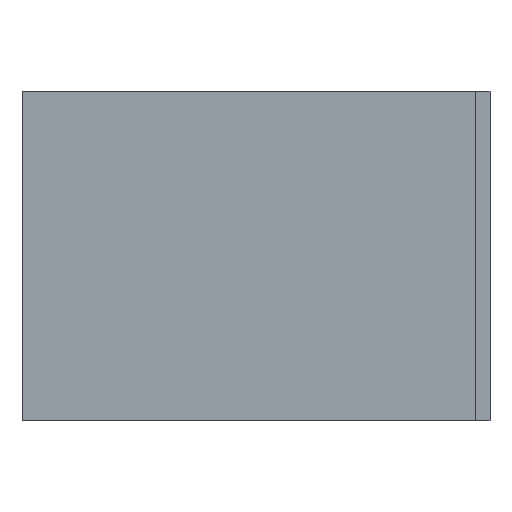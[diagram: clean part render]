
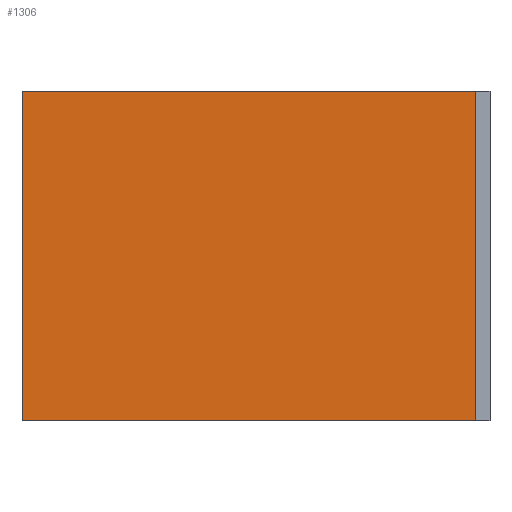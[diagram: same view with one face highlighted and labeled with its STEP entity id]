
A CAD part, left-side view. The second image highlights one B-rep face of the part: STEP entity #1306.
In plain terms, the highlighted planar face has unit normal (-1, 0, 0).
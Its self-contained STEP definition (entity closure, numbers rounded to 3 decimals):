
#1306 = ADVANCED_FACE ( 'NONE', ( #3102 ), #3096, .T. ) ;
#1672 = ORIENTED_EDGE ( 'NONE', *, *, #5565, .F. ) ;
#1673 = ORIENTED_EDGE ( 'NONE', *, *, #5564, .F. ) ;
#1674 = ORIENTED_EDGE ( 'NONE', *, *, #5563, .T. ) ;
#1675 = ORIENTED_EDGE ( 'NONE', *, *, #5568, .T. ) ;
#2031 = EDGE_LOOP ( 'NONE', ( #1672, #1673, #1674, #1675 ) ) ;
#2536 = LINE ( 'NONE', #2537, #7122 ) ;
#2537 = CARTESIAN_POINT ( 'NONE',  ( -87., 30., -45. ) ) ;
#2541 = LINE ( 'NONE', #2551, #7125 ) ;
#2542 = LINE ( 'NONE', #2548, #7127 ) ;
#2547 = DIRECTION ( 'NONE',  ( 0., -1., 0. ) ) ;
#2548 = CARTESIAN_POINT ( 'NONE',  ( -87., 32., -45. ) ) ;
#2550 = DIRECTION ( 'NONE',  ( 0., 0., 1. ) ) ;
#2551 = CARTESIAN_POINT ( 'NONE',  ( -87., 30., 0. ) ) ;
#2552 = LINE ( 'NONE', #2559, #7129 ) ;
#2553 = DIRECTION ( 'NONE',  ( 0., -1., 0. ) ) ;
#2559 = CARTESIAN_POINT ( 'NONE',  ( -87., -30., -45. ) ) ;
#2560 = DIRECTION ( 'NONE',  ( 0., 0., 1. ) ) ;
#3096 = PLANE ( 'NONE',  #5351 ) ;
#3098 = CARTESIAN_POINT ( 'NONE',  ( -87., 30., -45. ) ) ;
#3102 = FACE_OUTER_BOUND ( 'NONE', #2031, .T. ) ;
#3103 = DIRECTION ( 'NONE',  ( -1., 0., 0. ) ) ;
#3104 = DIRECTION ( 'NONE',  ( 0., -1., 0. ) ) ;
#4466 = VERTEX_POINT ( 'NONE', #5923 ) ;
#4467 = VERTEX_POINT ( 'NONE', #5924 ) ;
#4483 = VERTEX_POINT ( 'NONE', #5940 ) ;
#4490 = VERTEX_POINT ( 'NONE', #5947 ) ;
#5351 = AXIS2_PLACEMENT_3D ( 'NONE', #3098, #3103, #3104 ) ;
#5563 = EDGE_CURVE ( 'NONE', #4466, #4467, #2536, .T. ) ;
#5564 = EDGE_CURVE ( 'NONE', #4466, #4490, #2542, .T. ) ;
#5565 = EDGE_CURVE ( 'NONE', #4490, #4483, #2541, .T. ) ;
#5568 = EDGE_CURVE ( 'NONE', #4467, #4483, #2552, .T. ) ;
#5923 = CARTESIAN_POINT ( 'NONE',  ( -87., 32., -45. ) ) ;
#5924 = CARTESIAN_POINT ( 'NONE',  ( -87., -30., -45. ) ) ;
#5940 = CARTESIAN_POINT ( 'NONE',  ( -87., -30., 0. ) ) ;
#5947 = CARTESIAN_POINT ( 'NONE',  ( -87., 32., 0. ) ) ;
#7122 = VECTOR ( 'NONE', #2547, 1000. ) ;
#7125 = VECTOR ( 'NONE', #2553, 1000. ) ;
#7127 = VECTOR ( 'NONE', #2550, 1000. ) ;
#7129 = VECTOR ( 'NONE', #2560, 1000. ) ;
